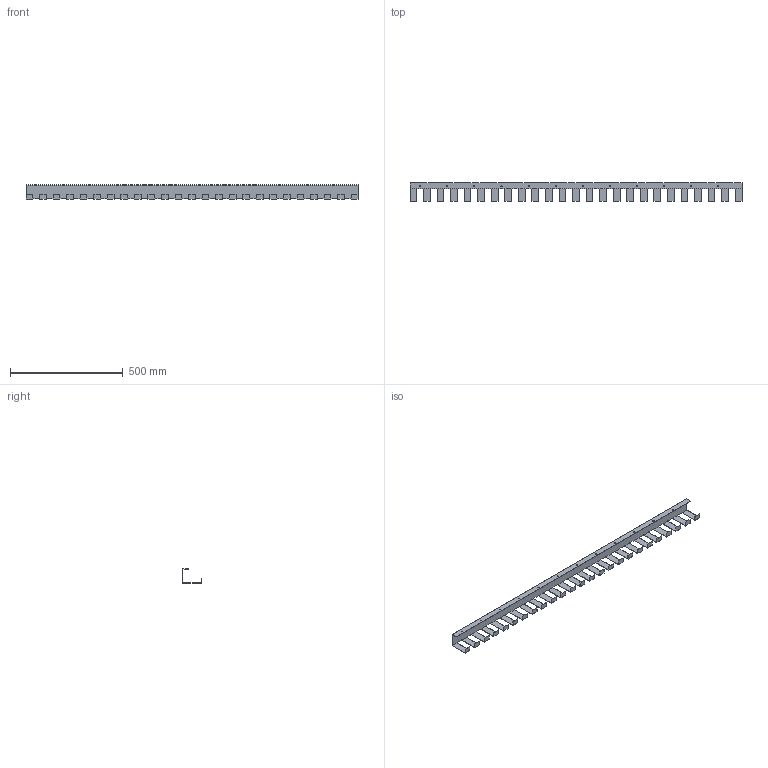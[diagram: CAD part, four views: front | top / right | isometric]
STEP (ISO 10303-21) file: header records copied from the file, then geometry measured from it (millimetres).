
FILE_DESCRIPTION( ( 'STEP AP214' ), '1' );
FILE_NAME( 'D:/Yug/2022/Actiforce_2022/QC/9309806.stp', '2022-03-02T07:28:37', ( '' ), ( '' ), ' ', 'PARTsolutions', ' ' );
FILE_SCHEMA( ( 'AUTOMOTIVE_DESIGN { 1 0 10303 214 1 1 1 1 }' ) );
Length unit declared in the file: millimetre
Products named in the file (1): _9309806
Bounding box: 1470 x 82 x 62 mm (x, y, z)
Volume: 201964.4 mm3; surface area: 412377.3 mm2
Topology: 1 solids, 1 shells, 216 faces, 642 edges, 428 vertices
Faces by surface type: plane 204, cylinder 12
Full cylindrical faces by diameter (mm): 5 x12
Entity records: 8842 total; most frequent: CARTESIAN_POINT 1275, ORIENTED_EDGE 1260, DIRECTION 1088, EDGE_CURVE 630, LINE 606, VECTOR 606, VERTEX_POINT 428, EDGE_LOOP 252
